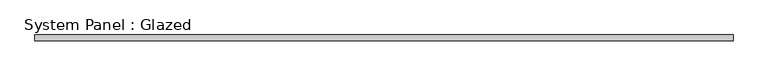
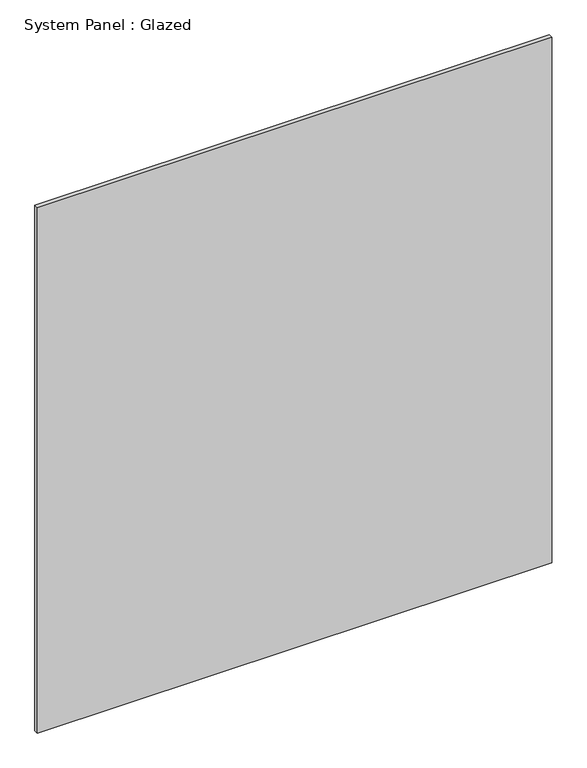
"""IFC4 building model written with IfcOpenShell, lengths in millimetres: plate geometry, System Panel : Glazed."""

import ifcopenshell
import ifcopenshell.guid

model = None  # the IFC model being written
_history = None  # IfcOwnerHistory: only IFC2X3 demands one
_inside = {}  # id of a spatial element -> (the spatial element, [elements in it])
_under = {}  # id of a project, library or spatial element -> (it, [spatial elements below it])
_declared = {}  # id of a project -> (the project, [libraries it declares])
_typed = {}  # id of a type object -> (the type object, [elements of that type])
_made_of = {}  # id of a material, layer set ... -> (it, [elements and type objects made of it])


def new_model(schema):
    """Start an empty IFC model of exactly this schema.

    Asked for "IFC4X3", IfcOpenShell would pick the latest addendum, in which some entities
    have other attributes; the version numbers below select the first issue.
    IFC2X3 requires an IfcOwnerHistory on every rooted entity: one is made here for all.
    """
    global model, _history
    if schema == "IFC4X3":
        model = ifcopenshell.file(schema_version=(4, 3, 0, 0))
    else:
        model = ifcopenshell.file(schema=schema)
    _inside.clear()
    _under.clear()
    _declared.clear()
    _typed.clear()
    _made_of.clear()
    _history = None
    if model.schema == "IFC2X3":
        org = make("IfcOrganization", Name="unknown")
        user = make(
            "IfcPersonAndOrganization",
            ThePerson=make("IfcPerson", FamilyName="unknown"),
            TheOrganization=org,
        )
        app = make(
            "IfcApplication",
            ApplicationDeveloper=org,
            Version="unknown",
            ApplicationFullName="unknown",
            ApplicationIdentifier="unknown",
        )
        _history = make(
            "IfcOwnerHistory",
            OwningUser=user,
            OwningApplication=app,
            ChangeAction="ADDED",
            CreationDate=0,
        )
    return model


def make(cls, **values):
    """One entity of the class cls with the attributes given. An attribute that is None is left unset."""
    return model.create_entity(
        cls, **{name: value for name, value in values.items() if value is not None}
    )


def rooted(cls, **values):
    """An entity with a GlobalId (a new one), such as an element, a storey or a relation."""
    return make(cls, GlobalId=ifcopenshell.guid.new(), OwnerHistory=_history, **values)


def si_unit(unit_type, name, prefix=None):
    """IfcSIUnit, for example si_unit("LENGTHUNIT", "METRE", prefix="MILLI")."""
    return make("IfcSIUnit", UnitType=unit_type, Prefix=prefix, Name=name)


def assignment(units):
    """IfcUnitAssignment: the units of a project."""
    return None if units is None else make("IfcUnitAssignment", Units=units)


def point(xyz):
    """IfcCartesianPoint."""
    return None if xyz is None else make("IfcCartesianPoint", Coordinates=xyz)


def direction(xyz):
    """IfcDirection."""
    return None if xyz is None else make("IfcDirection", DirectionRatios=xyz)


def frame(location, z_axis=None, x_axis=None):
    """IfcAxis2Placement3D, a coordinate frame: its origin and axes. An axis left out is left unset."""
    return make(
        "IfcAxis2Placement3D",
        Location=point(location),
        Axis=direction(z_axis),
        RefDirection=direction(x_axis),
    )


def origin():
    """The frame at (0, 0, 0) with its axes left unset."""
    return frame((0.0, 0.0, 0.0))


def origin_with_axes():
    """The frame at (0, 0, 0) with the z axis (0, 0, 1) and the x axis (1, 0, 0) written out."""
    return frame((0.0, 0.0, 0.0), z_axis=(0.0, 0.0, 1.0), x_axis=(1.0, 0.0, 0.0))


def place(relative_to, where):
    """IfcLocalPlacement: puts the frame where relative to a parent placement (None: the world)."""
    return make(
        "IfcLocalPlacement", PlacementRelTo=relative_to, RelativePlacement=where
    )


def context(
    kind, dimensions, precision=None, world=None, true_north=None, identifier=None
):
    """IfcGeometricRepresentationContext, for example the 3D "Model" context."""
    return make(
        "IfcGeometricRepresentationContext",
        ContextIdentifier=identifier,
        ContextType=kind,
        CoordinateSpaceDimension=dimensions,
        Precision=precision,
        WorldCoordinateSystem=world,
        TrueNorth=true_north,
    )


def project(units=None, contexts=None):
    """IfcProject with its units and contexts."""
    return rooted(
        "IfcProject",
        Name="project",
        RepresentationContexts=contexts,
        UnitsInContext=assignment(units),
    )


def spatial(cls, under=None, at=None, **own):
    """A site, building, storey or space (cls), placed at a placement, below another one or the project."""
    s = rooted(cls, ObjectPlacement=at, **own)
    if under is not None:
        _under.setdefault(under.id(), (under, []))[1].append(s)
    return s


def polyline(points):
    """IfcPolyline through the points."""
    return make("IfcPolyline", Points=[point(p) for p in points])


def outline(outer, holes=None, kind="AREA"):
    """IfcArbitraryClosedProfileDef: a profile drawn as a closed curve; with holes, ...WithVoids."""
    if holes is None:
        return make("IfcArbitraryClosedProfileDef", ProfileType=kind, OuterCurve=outer)
    return make(
        "IfcArbitraryProfileDefWithVoids",
        ProfileType=kind,
        OuterCurve=outer,
        InnerCurves=holes,
    )


def extrude(swept, where, along, depth):
    """IfcExtrudedAreaSolid: the profile swept, set in the frame where, extruded along a direction by depth."""
    return make(
        "IfcExtrudedAreaSolid",
        SweptArea=swept,
        Position=where,
        ExtrudedDirection=direction(along),
        Depth=depth,
    )


def shape(context_of_items, identifier, shape_type, items):
    """IfcShapeRepresentation: the items that make up one representation, for example the "Body"."""
    return make(
        "IfcShapeRepresentation",
        ContextOfItems=context_of_items,
        RepresentationIdentifier=identifier,
        RepresentationType=shape_type,
        Items=items,
    )


def source(mapping_origin, context_of_items, identifier, shape_type, items):
    """IfcRepresentationMap: a shape defined once, which mapped items show again and again."""
    return make(
        "IfcRepresentationMap",
        MappingOrigin=mapping_origin,
        MappedRepresentation=shape(context_of_items, identifier, shape_type, items),
    )


def transform(
    local_origin,
    x_axis=None,
    y_axis=None,
    z_axis=None,
    scale=None,
    scale2=None,
    scale3=None,
    uniform=True,
):
    """IfcCartesianTransformationOperator3D, or its non-uniform kind. x_axis, y_axis, z_axis: its Axis1, 2, 3."""
    if uniform:
        return make(
            "IfcCartesianTransformationOperator3D",
            Axis1=direction(x_axis),
            Axis2=direction(y_axis),
            LocalOrigin=point(local_origin),
            Scale=scale,
            Axis3=direction(z_axis),
        )
    return make(
        "IfcCartesianTransformationOperator3DnonUniform",
        Axis1=direction(x_axis),
        Axis2=direction(y_axis),
        LocalOrigin=point(local_origin),
        Scale=scale,
        Axis3=direction(z_axis),
        Scale2=scale2,
        Scale3=scale3,
    )


def mapped(mapping_source, mapping_target):
    """IfcMappedItem: shows the shape of a source again, moved by a transform."""
    return make(
        "IfcMappedItem", MappingSource=mapping_source, MappingTarget=mapping_target
    )


def made_of(thing, what):
    """Note that an element or type object is made of a material, layer set ...; save() writes the relation."""
    if what is not None:
        _made_of.setdefault(what.id(), (what, []))[1].append(thing)
    return thing


def element(
    cls,
    number,
    at=None,
    inside=None,
    cuts=None,
    type_object=None,
    material=None,
    context=None,
    identifier="Body",
    shape_type=None,
    held_by="IfcProductDefinitionShape",
    body=None,
    shapes=None,
    **own,
):
    """One element of the class cls, such as IfcWall. Its Tag is "e" and its number.

    at: its placement. inside: the storey or other place that contains it. cuts: it is an
    opening in that element (IfcRelVoidsElement). A single representation is given by context,
    identifier, shape_type and body (its items); several are given by shapes. held_by: the class
    of the entity that holds the representations. save() writes the other relations.
    """
    e = rooted(cls, Tag="e%d" % number, ObjectPlacement=at, **own)
    if body is not None:
        shapes = [shape(context, identifier, shape_type, body)]
    if shapes is not None:
        e.Representation = make(held_by, Representations=shapes)
    if inside is not None:
        _inside.setdefault(inside.id(), (inside, []))[1].append(e)
    if cuts is not None:
        rooted(
            "IfcRelVoidsElement", RelatingBuildingElement=cuts, RelatedOpeningElement=e
        )
    if type_object is not None:
        _typed.setdefault(type_object.id(), (type_object, []))[1].append(e)
    return made_of(e, material)


def aggregate(whole, parts):
    """IfcRelAggregates: a whole, such as a stair, and the parts it consists of."""
    return rooted("IfcRelAggregates", RelatingObject=whole, RelatedObjects=parts)


def save(model, path):
    """Write the relations noted so far, then the file.

    IfcRelAggregates (storeys below a building ...), IfcRelContainedInSpatialStructure (elements
    in a storey), IfcRelDefinesByType, IfcRelAssociatesMaterial and IfcRelDeclares: one each for
    every whole, place, type object, material and project.
    """
    for whole, parts in _under.values():
        aggregate(whole, parts)
    for where, things in _inside.values():
        rooted(
            "IfcRelContainedInSpatialStructure",
            RelatedElements=things,
            RelatingStructure=where,
        )
    for kind, things in _typed.values():
        rooted("IfcRelDefinesByType", RelatedObjects=things, RelatingType=kind)
    for what, things in _made_of.values():
        rooted("IfcRelAssociatesMaterial", RelatedObjects=things, RelatingMaterial=what)
    for by, libraries in _declared.values():
        rooted("IfcRelDeclares", RelatingContext=by, RelatedDefinitions=libraries)
    model.write(path)


def system_panel_glazed_4aba697c(model_context):
    return source(origin(), model_context, "Body", "SweptSolid", [
        extrude(outline(polyline([(1447.5, 24.5), (-1447.5, 24.5), (-1447.5, 49.5), (1447.5, 49.5), (1447.5, 24.5)])), origin_with_axes(), (0.0, 0.0, 1.0), 3125.0),
    ])


if __name__ == "__main__":
    model = new_model("IFC4")
    model_context = context("Model", 3, world=origin())
    ifc_project = project(units=[si_unit("LENGTHUNIT", "METRE", prefix="MILLI")], contexts=[model_context])
    site = spatial("IfcSite", under=ifc_project)
    building = spatial("IfcBuilding", under=site)
    placement = place(None, origin())
    system_panel_glazed_shape = system_panel_glazed_4aba697c(model_context)
    element("IfcPlate", 1, ObjectType="System Panel : Glazed", at=placement, inside=building, context=model_context, shape_type="MappedRepresentation", body=[
        mapped(system_panel_glazed_shape, transform((0.0, 0.0, 0.0), x_axis=(1.0, 0.0, 0.0), y_axis=(0.0, 1.0, 0.0), z_axis=(0.0, 0.0, 1.0))),
    ])
    save(model, "model.ifc")
